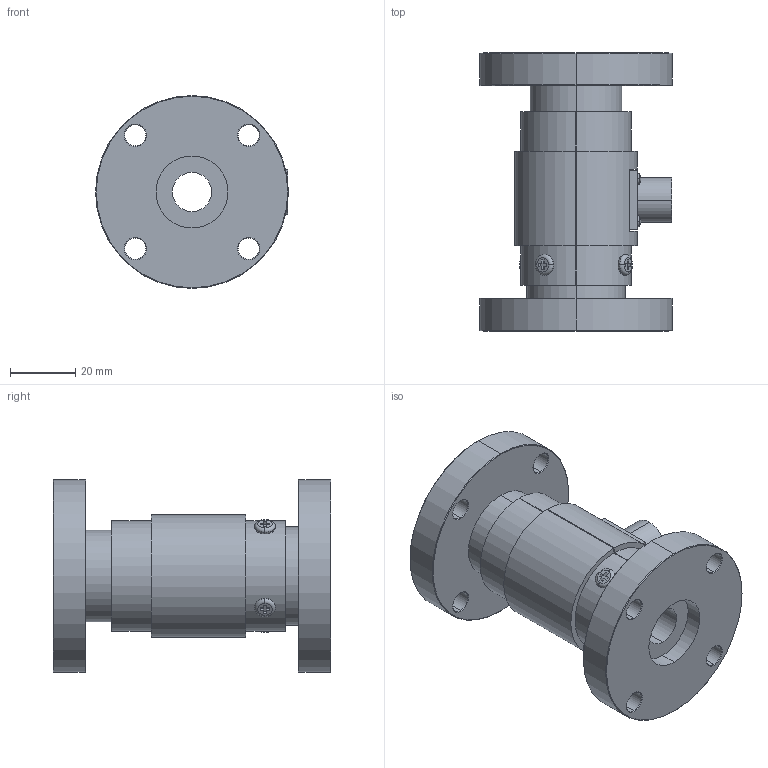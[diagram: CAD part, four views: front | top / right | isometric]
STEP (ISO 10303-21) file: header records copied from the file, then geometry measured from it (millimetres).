
FILE_DESCRIPTION (( 'STEP AP203' ), '1' );
FILE_NAME ('FTA.STEP', '2024-07-17T07:49:09', ( '' ), ( '' ), 'SwSTEP 2.0', 'SolidWorks 2019', '' );
FILE_SCHEMA (( 'CONFIG_CONTROL_DESIGN' ));
Length unit declared in the file: millimetre
Products named in the file (1): FTA
Bounding box: 59 x 85 x 59 mm (x, y, z)
Volume: 91856.8 mm3; surface area: 37095.3 mm2
Topology: 7 solids, 7 shells, 228 faces, 522 edges, 330 vertices
Faces by surface type: plane 100, cylinder 62, cone 42, torus 20, bspline 4
Entity records: 7277 total; most frequent: CARTESIAN_POINT 1859, DIRECTION 1176, ORIENTED_EDGE 1044, EDGE_CURVE 522, AXIS2_PLACEMENT_3D 437, VERTEX_POINT 330, LINE 302, VECTOR 302
